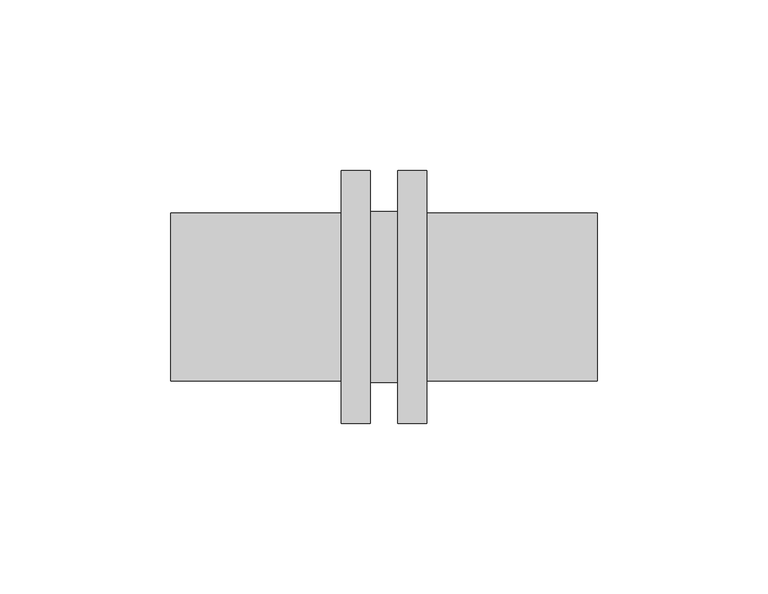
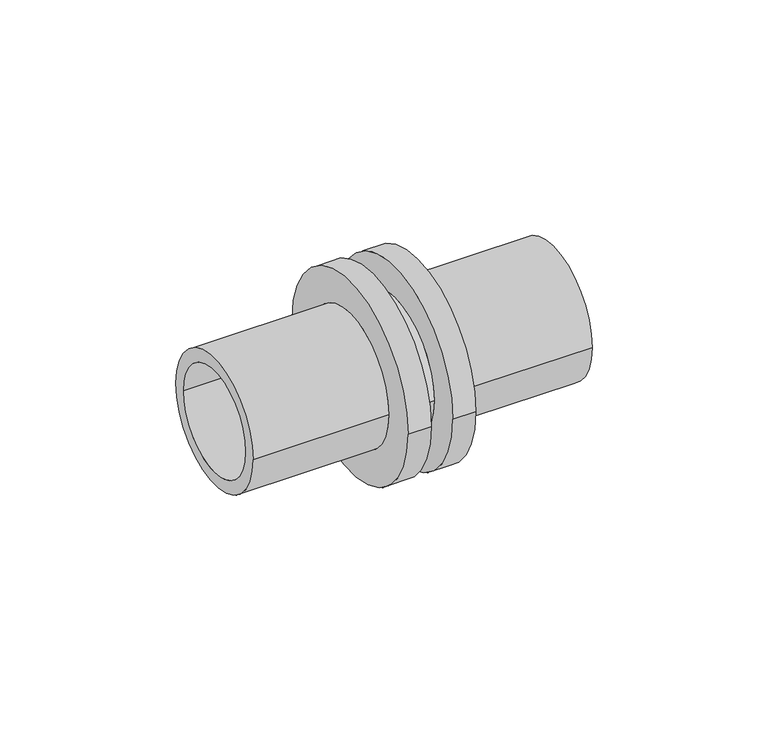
"""IFC4 building model written with IfcOpenShell, lengths in millimetres: pipe fitting geometry, RAUTITAN_Union_RX+ : RTI RX+ U DE."""

from ifc_helpers import new_model, si_unit, frame, origin, place, context, project, spatial, polyline, circle_curve, source, transform, mapped, element, save
from ifc_brep_helpers import plane_surface, cylinder_surface, revolved_surface, advanced_brep


def pipe_fitting_0c431896(model_context):
    return source(origin(), model_context, "Body", "AdvancedBrep", [
        advanced_brep(
        [(-62.5, 19.75, 0.0), (-62.5, -19.75, 0.0), (62.5, -19.75, 0.0), (62.5, 19.75, 0.0), (-12.5, 24.65, 0.0), (-12.5, -24.65, 0.0), (-62.5, -24.65, 0.0), (-62.5, 24.65, 0.0), (-4.0, 37.05, 0.0), (-4.0, -37.05, 0.0), (-12.5, -37.05, 0.0), (-12.5, 37.05, 0.0), (4.0, 25.05, 0.0), (4.0, -25.05, 0.0), (-4.0, -25.05, 0.0), (-4.0, 25.05, 0.0), (12.5, 37.05, 0.0), (12.5, -37.05, 0.0), (4.0, -37.05, 0.0), (4.0, 37.05, 0.0), (62.5, 24.65, 0.0), (62.5, -24.65, 0.0), (12.5, -24.65, 0.0), (12.5, 24.65, 0.0)],
        [
            (0, 1, circle_curve(frame((-62.5, 0.0, 0.0), z_axis=(-1.0, 0.0, 0.0), x_axis=(0.0, -1.0, 0.0)), 19.75)),
            (1, 2),
            (2, 3, circle_curve(frame((62.5, 0.0, 0.0), z_axis=(1.0, 0.0, 0.0), x_axis=(0.0, -1.0, 0.0)), 19.75)),
            (3, 0),
            (4, 5, circle_curve(frame((-12.5, 0.0, 0.0), z_axis=(-1.0, 0.0, 0.0), x_axis=(0.0, -1.0, 0.0)), 24.65)),
            (5, 6),
            (6, 7, circle_curve(frame((-62.5, 0.0, 0.0), z_axis=(1.0, 0.0, 0.0), x_axis=(0.0, -1.0, 0.0)), 24.65)),
            (7, 4),
            (8, 9, circle_curve(frame((-4.0, 0.0, 0.0), z_axis=(-1.0, 0.0, 0.0), x_axis=(0.0, -1.0, 0.0)), 37.05)),
            (9, 10),
            (10, 11, circle_curve(frame((-12.5, 0.0, 0.0), z_axis=(1.0, 0.0, 0.0), x_axis=(0.0, -1.0, 0.0)), 37.05)),
            (11, 8),
            (12, 13, circle_curve(frame((4.0, 0.0, 0.0), z_axis=(-1.0, 0.0, 0.0), x_axis=(0.0, -1.0, 0.0)), 25.05)),
            (13, 14),
            (14, 15, circle_curve(frame((-4.0, 0.0, 0.0), z_axis=(1.0, 0.0, 0.0), x_axis=(0.0, -1.0, 0.0)), 25.05)),
            (15, 12),
            (16, 17, circle_curve(frame((12.5, 0.0, 0.0), z_axis=(-1.0, 0.0, 0.0), x_axis=(0.0, -1.0, 0.0)), 37.05)),
            (17, 18),
            (18, 19, circle_curve(frame((4.0, 0.0, 0.0), z_axis=(1.0, 0.0, 0.0), x_axis=(0.0, -1.0, 0.0)), 37.05)),
            (19, 16),
            (20, 21, circle_curve(frame((62.5, 0.0, 0.0), z_axis=(-1.0, 0.0, 0.0), x_axis=(0.0, -1.0, 0.0)), 24.65)),
            (21, 22),
            (22, 23, circle_curve(frame((12.5, 0.0, 0.0), z_axis=(1.0, 0.0, 0.0), x_axis=(0.0, -1.0, 0.0)), 24.65)),
            (23, 20),
            (1, 0, circle_curve(frame((-62.5, 0.0, 0.0), z_axis=(-1.0, 0.0, 0.0), x_axis=(0.0, 1.0, 0.0)), 19.75)),
            (3, 2, circle_curve(frame((62.5, 0.0, 0.0), z_axis=(1.0, 0.0, 0.0), x_axis=(0.0, 1.0, 0.0)), 19.75)),
            (6, 7, circle_curve(frame((-62.5, 0.0, 0.0), z_axis=(-1.0, 0.0, 0.0), x_axis=(0.0, 1.0, 0.0)), 24.65)),
            (5, 4, circle_curve(frame((-12.5, 0.0, 0.0), z_axis=(-1.0, 0.0, 0.0), x_axis=(0.0, 1.0, 0.0)), 24.65)),
            (10, 11, circle_curve(frame((-12.5, 0.0, 0.0), z_axis=(-1.0, 0.0, 0.0), x_axis=(0.0, 1.0, 0.0)), 37.05)),
            (9, 8, circle_curve(frame((-4.0, 0.0, 0.0), z_axis=(-1.0, 0.0, 0.0), x_axis=(0.0, 1.0, 0.0)), 37.05)),
            (14, 15, circle_curve(frame((-4.0, 0.0, 0.0), z_axis=(-1.0, 0.0, 0.0), x_axis=(0.0, 1.0, 0.0)), 25.05)),
            (13, 12, circle_curve(frame((4.0, 0.0, 0.0), z_axis=(-1.0, 0.0, 0.0), x_axis=(0.0, 1.0, 0.0)), 25.05)),
            (18, 19, circle_curve(frame((4.0, 0.0, 0.0), z_axis=(-1.0, 0.0, 0.0), x_axis=(0.0, 1.0, 0.0)), 37.05)),
            (17, 16, circle_curve(frame((12.5, 0.0, 0.0), z_axis=(-1.0, 0.0, 0.0), x_axis=(0.0, 1.0, 0.0)), 37.05)),
            (22, 23, circle_curve(frame((12.5, 0.0, 0.0), z_axis=(-1.0, 0.0, 0.0), x_axis=(0.0, 1.0, 0.0)), 24.65)),
            (21, 20, circle_curve(frame((62.5, 0.0, 0.0), z_axis=(-1.0, 0.0, 0.0), x_axis=(0.0, 1.0, 0.0)), 24.65)),
        ],
        [
            revolved_surface(polyline([(62.5, -19.75, 0.0), (-62.5, -19.75, 0.0)]), (0.0, 0.0, 0.0), (1.0, 0.0, 0.0)),
            cylinder_surface(frame((0.0, 0.0, 0.0), z_axis=(1.0, 0.0, 0.0), x_axis=(0.0, -1.0, 0.0)), 24.65),
            cylinder_surface(frame((0.0, 0.0, 0.0), z_axis=(1.0, 0.0, 0.0), x_axis=(0.0, -1.0, 0.0)), 37.05),
            cylinder_surface(frame((0.0, 0.0, 0.0), z_axis=(1.0, 0.0, 0.0), x_axis=(0.0, -1.0, 0.0)), 25.05),
            revolved_surface(polyline([(62.5, 19.75, 0.0), (-62.5, 19.75, 0.0)]), (0.0, 0.0, 0.0), (1.0, 0.0, 0.0)),
            plane_surface(frame((-62.5, 0.0, 0.0), z_axis=(-1.0, 0.0, 0.0), x_axis=(0.0, 1.0, 0.0))),
            cylinder_surface(frame((0.0, 0.0, 0.0), z_axis=(1.0, 0.0, 0.0), x_axis=(0.0, 1.0, 0.0)), 24.65),
            plane_surface(frame((-12.5, 0.0, 0.0), z_axis=(-1.0, 0.0, 0.0), x_axis=(0.0, 1.0, 0.0))),
            cylinder_surface(frame((0.0, 0.0, 0.0), z_axis=(1.0, 0.0, 0.0), x_axis=(0.0, 1.0, 0.0)), 37.05),
            plane_surface(frame((-4.0, 0.0, 0.0), z_axis=(1.0, 0.0, 0.0), x_axis=(0.0, 1.0, 0.0))),
            cylinder_surface(frame((0.0, 0.0, 0.0), z_axis=(1.0, 0.0, 0.0), x_axis=(0.0, 1.0, 0.0)), 25.05),
            plane_surface(frame((4.0, 0.0, 0.0), z_axis=(-1.0, 0.0, 0.0), x_axis=(0.0, 1.0, 0.0))),
            plane_surface(frame((12.5, 0.0, 0.0), z_axis=(1.0, 0.0, 0.0), x_axis=(0.0, 1.0, 0.0))),
            plane_surface(frame((62.5, 0.0, 0.0), z_axis=(1.0, 0.0, 0.0), x_axis=(0.0, 1.0, 0.0))),
        ],
        [
            (0, [[1, 2, 3, 4]]),
            (1, [[5, 6, 7, 8]]),
            (2, [[9, 10, 11, 12]]),
            (3, [[13, 14, 15, 16]]),
            (2, [[17, 18, 19, 20]]),
            (1, [[21, 22, 23, 24]]),
            (4, [[25, -4, 26, -2]]),
            (5, [[27, -7], [-25, -1]]),
            (6, [[28, -8, -27, -6]]),
            (7, [[29, -11], [-28, -5]]),
            (8, [[30, -12, -29, -10]]),
            (9, [[-30, -9], [31, -15]]),
            (10, [[32, -16, -31, -14]]),
            (11, [[33, -19], [-32, -13]]),
            (8, [[34, -20, -33, -18]]),
            (12, [[-34, -17], [35, -23]]),
            (6, [[36, -24, -35, -22]]),
            (13, [[-36, -21], [-26, -3]]),
        ],
    ),
    ])


if __name__ == "__main__":
    model = new_model("IFC4")
    model_context = context("Model", 3, world=origin())
    ifc_project = project(units=[si_unit("LENGTHUNIT", "METRE", prefix="MILLI")], contexts=[model_context])
    site = spatial("IfcSite", under=ifc_project)
    building = spatial("IfcBuilding", under=site)
    placement = place(None, origin())
    pipe_fitting_shape = pipe_fitting_0c431896(model_context)
    element("IfcPipeFitting", 1, ObjectType="RAUTITAN_Union_RX+ : RTI RX+ U DE", at=placement, inside=building, context=model_context, shape_type="MappedRepresentation", body=[
        mapped(pipe_fitting_shape, transform((0.0, 0.0, 0.0), x_axis=(1.0, 0.0, 0.0), y_axis=(0.0, 1.0, 0.0), z_axis=(0.0, 0.0, 1.0))),
    ])
    save(model, "model.ifc")
